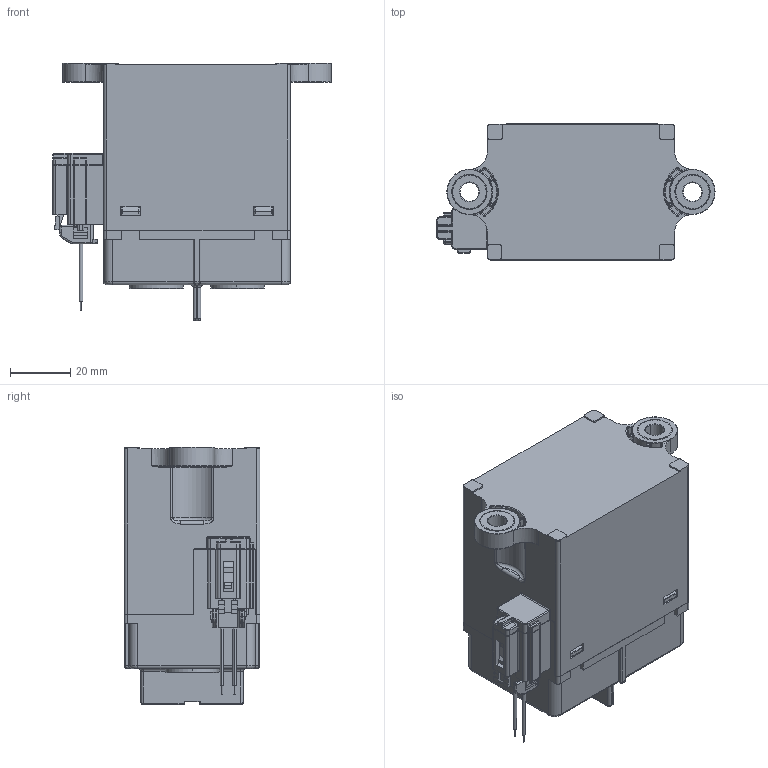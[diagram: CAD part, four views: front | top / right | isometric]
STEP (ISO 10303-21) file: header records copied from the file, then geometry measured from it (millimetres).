
FILE_DESCRIPTION (( 'STEP AP214' ), '1' );
FILE_NAME ('P500軞蚾芞.STEP', '2023-08-09T01:19:29', ( 'AD-YF' ), ( '' ), 'SwSTEP 2.0', 'SolidWorks 2016', '' );
FILE_SCHEMA (( 'AUTOMOTIVE_DESIGN' ));
Length unit declared in the file: millimetre
Products named in the file (19): CHEV-P250TDK; TDK奻俋褲窒煦; 0-1522001-0 TDK奻俋褲; TDK狟俋褲窒煦; 0-1522002-0 TDK狟俋褲; 0-1522025-0 垫圈A; TDK 樟萇ん窒煦; TDK 樟萇ん窒煦1; TDK樟萇ん窒煦2; TDK 线圈架部分; TDK 线圈架; 0-1523026-0 线圈引脚剪裁; TDK諉揖窒煦1; 諉揖窒煦; 噙郪璃; TDK竘堤傷A; P500軞蚾芞; 500梓ワ; 0-1522133-0 天海连接器0435308
Assembly tree (20 placements, depth 9):
  P500軞蚾芞
    CHEV-P250TDK
      TDK 樟萇ん窒煦
        TDK 樟萇ん窒煦1
          TDK樟萇ん窒煦2
            TDK諉揖窒煦1
              諉揖窒煦
                噙郪璃
                  TDK竘堤傷A  x2
            TDK 线圈架部分
              TDK 线圈架
                0-1523026-0 线圈引脚剪裁
      TDK狟俋褲窒煦
        0-1522025-0 垫圈A  x2
        0-1522002-0 TDK狟俋褲
      TDK奻俋褲窒煦
        0-1522001-0 TDK奻俋褲
    0-1522133-0 天海连接器0435308
    500梓ワ
Bounding box: 92.3 x 45.1 x 85.5 mm (x, y, z)
Volume: 39464.8 mm3; surface area: 56804.7 mm2
Topology: 12 solids, 12 shells, 4181 faces, 10979 edges, 6796 vertices
Faces by surface type: plane 2175, cylinder 821, bspline 595, torus 396, sphere 137, cone 57
Entity records: 164018 total; most frequent: CARTESIAN_POINT 53126, ORIENTED_EDGE 21396, DIRECTION 18576, EDGE_CURVE 10698, LINE 7230, VECTOR 7230, VERTEX_POINT 6733, AXIS2_PLACEMENT_3D 5673
